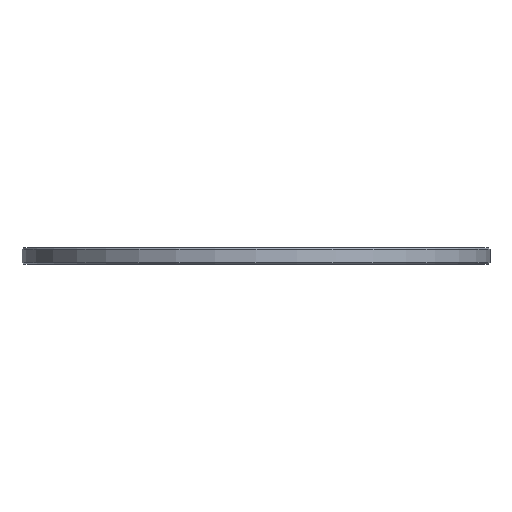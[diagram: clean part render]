
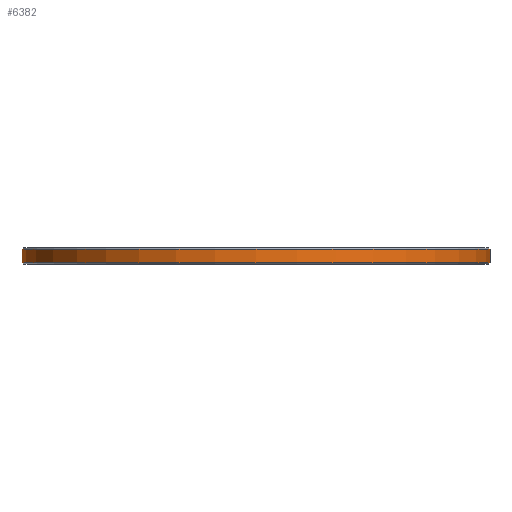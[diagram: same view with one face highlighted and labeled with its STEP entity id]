
A CAD part, front view. The second image highlights one B-rep face of the part: STEP entity #6382.
In plain terms, the highlighted cylindrical face has radius 43.75 mm (diameter 87.5 mm), a full revolution.
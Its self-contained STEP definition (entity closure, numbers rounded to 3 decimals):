
#71=CYLINDRICAL_SURFACE('',#6788,43.75);
#657=FACE_OUTER_BOUND('',#1028,.T.);
#1028=EDGE_LOOP('',(#5915,#5916,#5917,#5918));
#1118=CIRCLE('',#6787,43.75);
#1119=CIRCLE('',#6789,43.75);
#1923=LINE('',#10182,#2738);
#2738=VECTOR('',#8350,43.75);
#3324=VERTEX_POINT('',#10176);
#3325=VERTEX_POINT('',#10180);
#4190=EDGE_CURVE('',#3324,#3324,#1118,.T.);
#4192=EDGE_CURVE('',#3325,#3325,#1119,.T.);
#4193=EDGE_CURVE('',#3325,#3324,#1923,.T.);
#5915=ORIENTED_EDGE('',*,*,#4192,.F.);
#5916=ORIENTED_EDGE('',*,*,#4193,.T.);
#5917=ORIENTED_EDGE('',*,*,#4190,.F.);
#5918=ORIENTED_EDGE('',*,*,#4193,.F.);
#6382=ADVANCED_FACE('',(#657),#71,.T.);
#6787=AXIS2_PLACEMENT_3D('',#10177,#8343,#8344);
#6788=AXIS2_PLACEMENT_3D('',#10179,#8346,#8347);
#6789=AXIS2_PLACEMENT_3D('',#10181,#8348,#8349);
#8343=DIRECTION('center_axis',(0.,0.,-1.));
#8344=DIRECTION('ref_axis',(1.,0.,0.));
#8346=DIRECTION('center_axis',(0.,0.,1.));
#8347=DIRECTION('ref_axis',(1.,0.,0.));
#8348=DIRECTION('center_axis',(0.,0.,1.));
#8349=DIRECTION('ref_axis',(1.,0.,0.));
#8350=DIRECTION('',(0.,0.,-1.));
#10176=CARTESIAN_POINT('',(-43.75,0.,0.3));
#10177=CARTESIAN_POINT('Origin',(0.,0.,0.3));
#10179=CARTESIAN_POINT('Origin',(0.,0.,0.));
#10180=CARTESIAN_POINT('',(-43.75,0.,2.825));
#10181=CARTESIAN_POINT('Origin',(0.,0.,2.825));
#10182=CARTESIAN_POINT('',(-43.75,0.,0.));
